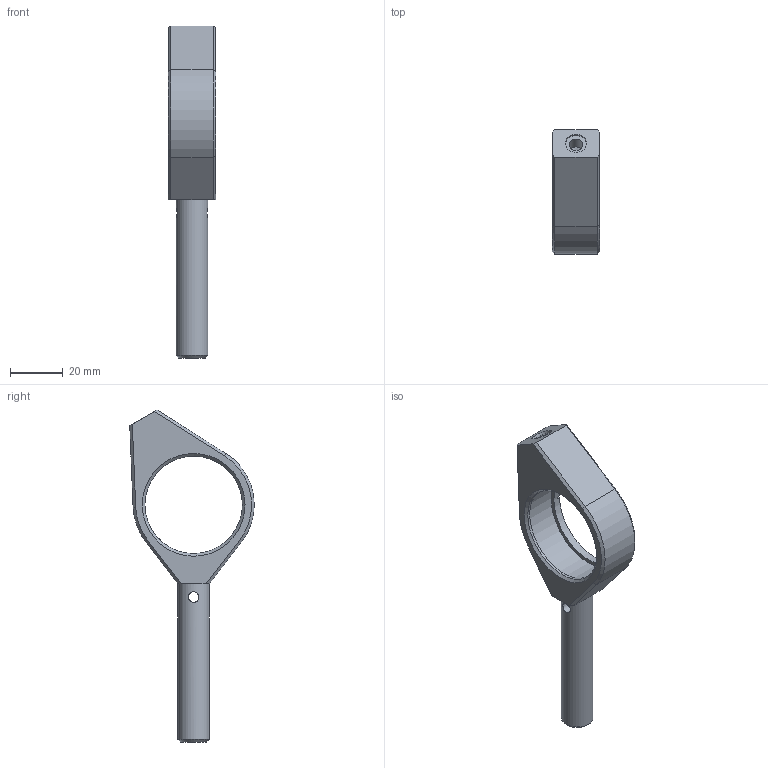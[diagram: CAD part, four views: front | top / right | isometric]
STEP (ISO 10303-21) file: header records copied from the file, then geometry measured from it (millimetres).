
FILE_DESCRIPTION((''),'2;1');
FILE_NAME('Z:\2能登便\3Dﾓﾃﾞﾙ（角屋さま野中さま⇒川島）\2010年5月分\LHF-40S\LHF-40S.stp','2010-08-03T11:53:05',('okegawa'),(''),'Autodesk Inventor 2008','Autodesk Inventor 2008','');
FILE_SCHEMA(('AUTOMOTIVE_DESIGN { 1 0 10303 214 1 1 1 1 }'));
Length unit declared in the file: millimetre
Products named in the file (1): LHF40S-M02-10001-S01
Bounding box: 18 x 47.24 x 126 mm (x, y, z)
Volume: 23778.9 mm3; surface area: 10422.9 mm2
Topology: 1 solids, 3 shells, 56 faces, 130 edges, 82 vertices
Faces by surface type: plane 32, cylinder 10, bspline 8, cone 6
Full cylindrical faces by diameter (mm): 4 x1, 5 x1, 12 x1, 37 x2, 40 x1
Entity records: 1688 total; most frequent: CARTESIAN_POINT 474, DIRECTION 246, ORIENTED_EDGE 220, EDGE_CURVE 110, AXIS2_PLACEMENT_3D 90, EDGE_LOOP 78, VERTEX_POINT 76, VECTOR 66
